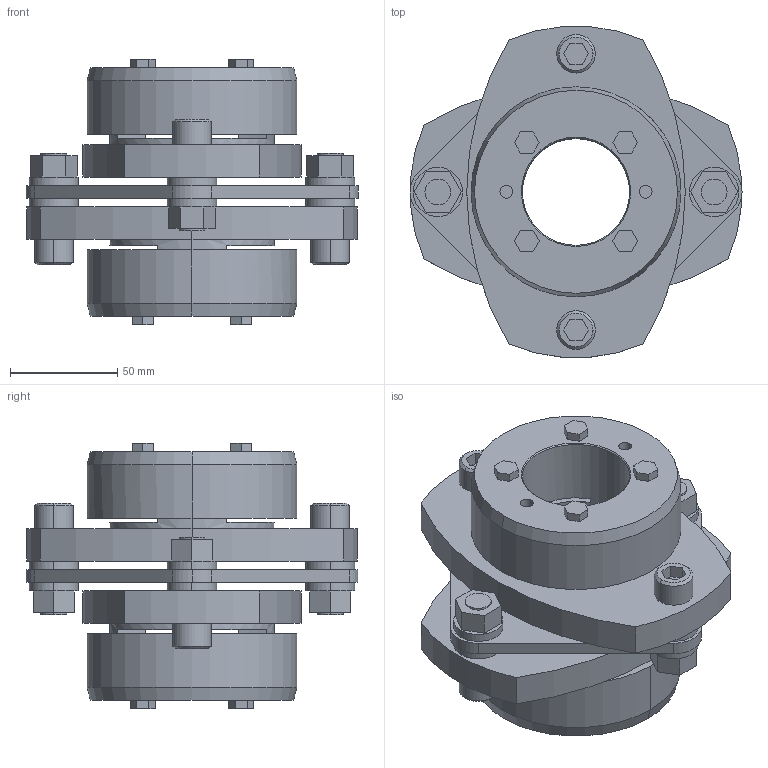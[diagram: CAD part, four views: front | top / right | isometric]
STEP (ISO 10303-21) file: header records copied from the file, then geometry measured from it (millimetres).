
FILE_DESCRIPTION((''),'2;1');
FILE_NAME('LCS-155T7-50×50.stp','2011-09-08T11:11:12',(''),(''),'AutoCAD STEP 2000i','AutoCAD 2000i',', , ');
FILE_SCHEMA(('CONFIG_CONTROL_DESIGN'));
Length unit declared in the file: millimetre
Products named in the file (7): LCS-155T7-50×50; 忣兜1; LC155T7-T050-1; LC155T7-T050; LC155T7-T045-1; LC155T7-T045; LCS155-ITA
Assembly tree (6 placements, depth 2):
  LCS-155T7-50×50
    忣兜1
    LC155T7-T050-1
    LC155T7-T050
    LC155T7-T045-1
    LC155T7-T045
    LCS155-ITA
Bounding box: 155 x 154.9 x 124 mm (x, y, z)
Volume: 802362.7 mm3; surface area: 144408.8 mm2
Topology: 1 solids, 1 shells, 246 faces, 606 edges, 398 vertices
Faces by surface type: plane 146, cylinder 80, cone 20
Entity records: 7499 total; most frequent: DIRECTION 1310, CARTESIAN_POINT 1257, ORIENTED_EDGE 1212, EDGE_CURVE 606, AXIS2_PLACEMENT_3D 451, VECTOR 408, LINE 408, VERTEX_POINT 398
